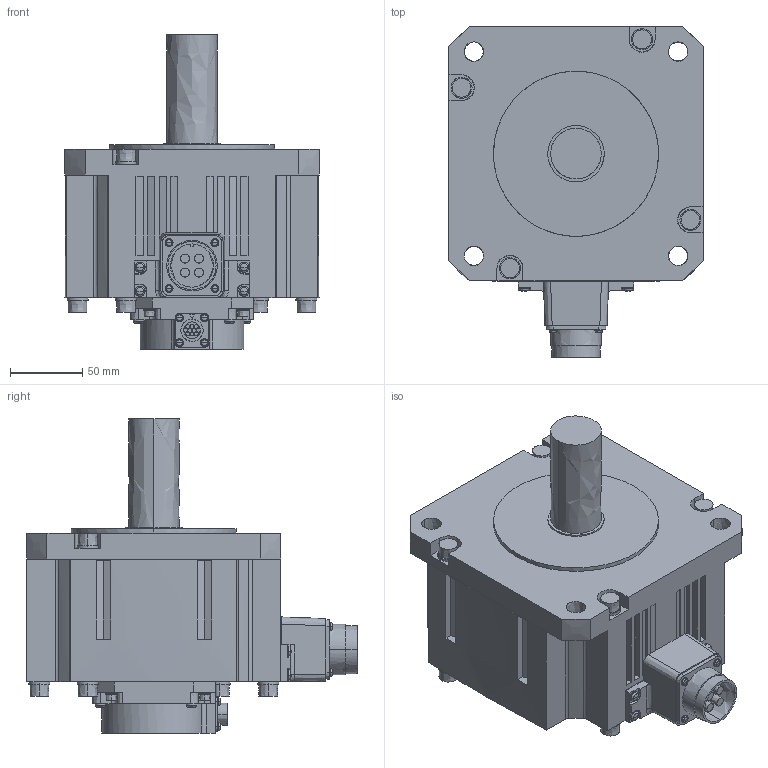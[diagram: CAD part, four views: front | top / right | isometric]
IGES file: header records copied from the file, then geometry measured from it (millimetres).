
Start section:  PTC IGES file: hk-st202w_.igs
Global section: file name: hk-st202w_.igs; native system: Creo Parametric by PTC Inc.; preprocessor: 2016380; author: XE90682; organization: Unknown; date: 20190117.162814; units: millimetre
Bounding box: 176 x 228.8 x 217.5 mm (x, y, z)
Volume: 3204042 mm3; surface area: 180968 mm2
Topology: 1 solids, 1 shells, 523 faces, 1271 edges, 804 vertices
Faces by surface type: bspline 523
